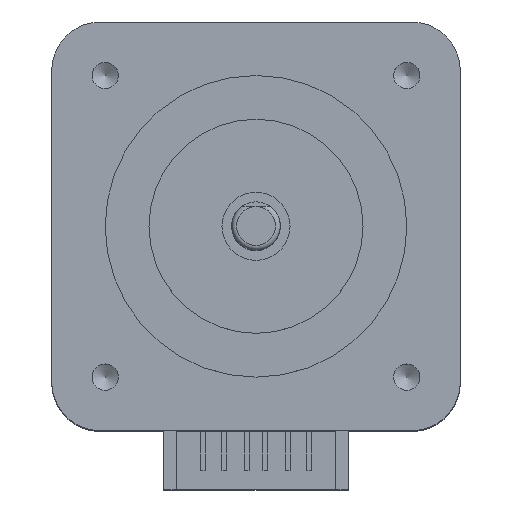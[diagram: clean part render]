
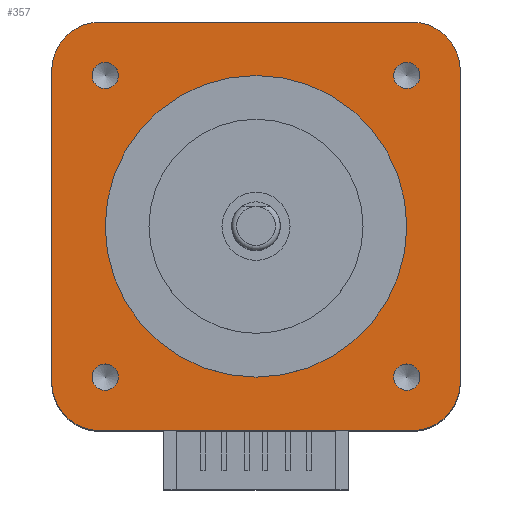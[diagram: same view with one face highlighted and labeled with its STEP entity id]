
A CAD part, top view. The second image highlights one B-rep face of the part: STEP entity #357.
In plain terms, the highlighted planar face has unit normal (0, 0, 1).
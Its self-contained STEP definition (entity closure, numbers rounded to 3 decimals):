
#116=PLANE('',#2783);
#357=ADVANCED_FACE('',(#1130,#1131,#1132,#1133,#1134,#1135),#116,.F.);
#607=LINE('',#3895,#898);
#608=LINE('',#3900,#899);
#609=LINE('',#3904,#900);
#610=LINE('',#3908,#901);
#898=VECTOR('',#3100,1.);
#899=VECTOR('',#3103,1.);
#900=VECTOR('',#3106,1.);
#901=VECTOR('',#3109,1.);
#1130=FACE_BOUND('',#1216,.T.);
#1131=FACE_BOUND('',#1217,.T.);
#1132=FACE_BOUND('',#1218,.T.);
#1133=FACE_BOUND('',#1219,.T.);
#1134=FACE_BOUND('',#1220,.T.);
#1135=FACE_BOUND('',#1221,.T.);
#1216=EDGE_LOOP('',(#1490));
#1217=EDGE_LOOP('',(#1491));
#1218=EDGE_LOOP('',(#1492));
#1219=EDGE_LOOP('',(#1493));
#1220=EDGE_LOOP('',(#1494,#1495,#1496,#1497,#1498,#1499,#1500,#1501));
#1221=EDGE_LOOP('',(#1502));
#1490=ORIENTED_EDGE('',*,*,#2437,.T.);
#1491=ORIENTED_EDGE('',*,*,#2438,.T.);
#1492=ORIENTED_EDGE('',*,*,#2439,.T.);
#1493=ORIENTED_EDGE('',*,*,#2440,.T.);
#1494=ORIENTED_EDGE('',*,*,#2441,.F.);
#1495=ORIENTED_EDGE('',*,*,#2442,.T.);
#1496=ORIENTED_EDGE('',*,*,#2443,.F.);
#1497=ORIENTED_EDGE('',*,*,#2444,.T.);
#1498=ORIENTED_EDGE('',*,*,#2445,.F.);
#1499=ORIENTED_EDGE('',*,*,#2446,.T.);
#1500=ORIENTED_EDGE('',*,*,#2447,.F.);
#1501=ORIENTED_EDGE('',*,*,#2448,.T.);
#1502=ORIENTED_EDGE('',*,*,#2449,.T.);
#2185=VERTEX_POINT('',#3888);
#2186=VERTEX_POINT('',#3890);
#2187=VERTEX_POINT('',#3892);
#2188=VERTEX_POINT('',#3894);
#2189=VERTEX_POINT('',#3896);
#2190=VERTEX_POINT('',#3897);
#2191=VERTEX_POINT('',#3899);
#2192=VERTEX_POINT('',#3901);
#2193=VERTEX_POINT('',#3903);
#2194=VERTEX_POINT('',#3905);
#2195=VERTEX_POINT('',#3907);
#2196=VERTEX_POINT('',#3909);
#2197=VERTEX_POINT('',#3912);
#2437=EDGE_CURVE('',#2185,#2185,#2706,.T.);
#2438=EDGE_CURVE('',#2186,#2186,#2707,.T.);
#2439=EDGE_CURVE('',#2187,#2187,#2708,.T.);
#2440=EDGE_CURVE('',#2188,#2188,#2709,.T.);
#2441=EDGE_CURVE('',#2189,#2190,#607,.T.);
#2442=EDGE_CURVE('',#2189,#2191,#2710,.T.);
#2443=EDGE_CURVE('',#2192,#2191,#608,.T.);
#2444=EDGE_CURVE('',#2192,#2193,#2711,.T.);
#2445=EDGE_CURVE('',#2194,#2193,#609,.T.);
#2446=EDGE_CURVE('',#2194,#2195,#2712,.T.);
#2447=EDGE_CURVE('',#2196,#2195,#610,.T.);
#2448=EDGE_CURVE('',#2196,#2190,#2713,.T.);
#2449=EDGE_CURVE('',#2197,#2197,#2714,.T.);
#2706=CIRCLE('',#2774,1.35);
#2707=CIRCLE('',#2775,1.35);
#2708=CIRCLE('',#2776,1.35);
#2709=CIRCLE('',#2777,1.35);
#2710=CIRCLE('',#2778,5.);
#2711=CIRCLE('',#2779,5.);
#2712=CIRCLE('',#2780,5.);
#2713=CIRCLE('',#2781,5.);
#2714=CIRCLE('',#2782,15.5);
#2774=AXIS2_PLACEMENT_3D('',#3887,#3092,#3093);
#2775=AXIS2_PLACEMENT_3D('',#3889,#3094,#3095);
#2776=AXIS2_PLACEMENT_3D('',#3891,#3096,#3097);
#2777=AXIS2_PLACEMENT_3D('',#3893,#3098,#3099);
#2778=AXIS2_PLACEMENT_3D('',#3898,#3101,#3102);
#2779=AXIS2_PLACEMENT_3D('',#3902,#3104,#3105);
#2780=AXIS2_PLACEMENT_3D('',#3906,#3107,#3108);
#2781=AXIS2_PLACEMENT_3D('',#3910,#3110,#3111);
#2782=AXIS2_PLACEMENT_3D('',#3911,#3112,#3113);
#2783=AXIS2_PLACEMENT_3D('',#3913,#3114,#3115);
#3092=DIRECTION('',(0.,0.,-1.));
#3093=DIRECTION('',(-1.,0.,0.));
#3094=DIRECTION('',(0.,0.,-1.));
#3095=DIRECTION('',(-1.,0.,0.));
#3096=DIRECTION('',(0.,0.,-1.));
#3097=DIRECTION('',(-1.,0.,0.));
#3098=DIRECTION('',(0.,0.,-1.));
#3099=DIRECTION('',(-1.,0.,0.));
#3100=DIRECTION('',(1.,0.,0.));
#3101=DIRECTION('',(0.,0.,1.));
#3102=DIRECTION('',(-1.,0.,0.));
#3103=DIRECTION('',(0.,1.,0.));
#3104=DIRECTION('',(0.,0.,1.));
#3105=DIRECTION('',(-1.,0.,0.));
#3106=DIRECTION('',(-1.,0.,0.));
#3107=DIRECTION('',(0.,0.,1.));
#3108=DIRECTION('',(-1.,0.,0.));
#3109=DIRECTION('',(0.,-1.,0.));
#3110=DIRECTION('',(0.,0.,1.));
#3111=DIRECTION('',(-1.,0.,0.));
#3112=DIRECTION('',(0.,0.,-1.));
#3113=DIRECTION('',(1.,0.,0.));
#3114=DIRECTION('',(0.,0.,-1.));
#3115=DIRECTION('',(-1.,0.,0.));
#3887=CARTESIAN_POINT('',(15.5,-15.5,0.));
#3888=CARTESIAN_POINT('',(14.15,-15.5,0.));
#3889=CARTESIAN_POINT('',(15.5,15.5,0.));
#3890=CARTESIAN_POINT('',(14.15,15.5,0.));
#3891=CARTESIAN_POINT('',(-15.5,15.5,0.));
#3892=CARTESIAN_POINT('',(-16.85,15.5,0.));
#3893=CARTESIAN_POINT('',(-15.5,-15.5,0.));
#3894=CARTESIAN_POINT('',(-16.85,-15.5,0.));
#3895=CARTESIAN_POINT('',(-21.,21.,0.));
#3896=CARTESIAN_POINT('',(-16.,21.,0.));
#3897=CARTESIAN_POINT('',(16.,21.,0.));
#3898=CARTESIAN_POINT('',(-16.,16.,0.));
#3899=CARTESIAN_POINT('',(-21.,16.,0.));
#3900=CARTESIAN_POINT('',(-21.,-21.,0.));
#3901=CARTESIAN_POINT('',(-21.,-16.,0.));
#3902=CARTESIAN_POINT('',(-16.,-16.,0.));
#3903=CARTESIAN_POINT('',(-16.,-21.,0.));
#3904=CARTESIAN_POINT('',(21.,-21.,0.));
#3905=CARTESIAN_POINT('',(16.,-21.,0.));
#3906=CARTESIAN_POINT('',(16.,-16.,0.));
#3907=CARTESIAN_POINT('',(21.,-16.,0.));
#3908=CARTESIAN_POINT('',(21.,21.,0.));
#3909=CARTESIAN_POINT('',(21.,16.,0.));
#3910=CARTESIAN_POINT('',(16.,16.,0.));
#3911=CARTESIAN_POINT('',(0.,0.,0.));
#3912=CARTESIAN_POINT('',(15.5,0.,0.));
#3913=CARTESIAN_POINT('',(-21.,-21.,0.));
